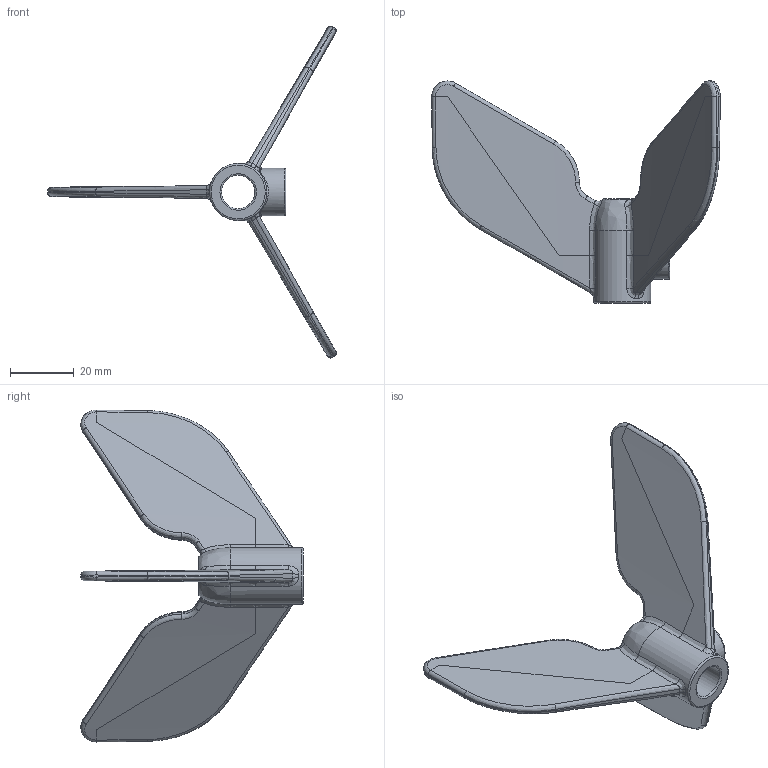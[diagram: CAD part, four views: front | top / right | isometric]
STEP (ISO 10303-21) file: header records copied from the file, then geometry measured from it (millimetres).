
FILE_DESCRIPTION(/* description */ ('ELICA COMPLETA AC2 PLASTICA - 3 PALE 120x70'),/* implementation_level */ '2;1');
FILE_NAME(/* name */ 'AC2.stp',/* time_stamp */ '2024-03-22T10:15:34+01:00',/* author */ ('filippo.guidetti'),/* organization */ (''),/* preprocessor_version */ 'ST-DEVELOPER v20',/* originating_system */ 'Autodesk Inventor 2024',/* authorisation */ 'Giovanni Guazzetti');
FILE_SCHEMA (('AUTOMOTIVE_DESIGN { 1 0 10303 214 3 1 1 }'));
Length unit declared in the file: millimetre
Products named in the file (1): 0404_0003_00-00
Bounding box: 90.88 x 70 x 104.56 mm (x, y, z)
Volume: 25456.3 mm3; surface area: 16184.9 mm2
Topology: 1 solids, 1 shells, 146 faces, 352 edges, 208 vertices
Faces by surface type: bspline 89, cylinder 37, plane 15, torus 5
Full cylindrical faces by diameter (mm): 4.8 x1, 10.5 x1, 11 x1, 15 x1, 18 x1
Entity records: 18385 total; most frequent: CARTESIAN_POINT 15434, ORIENTED_EDGE 704, DIRECTION 438, EDGE_CURVE 352, VERTEX_POINT 208, AXIS2_PLACEMENT_3D 182, EDGE_LOOP 150, B_SPLINE_CURVE_WITH_KNOTS 148
